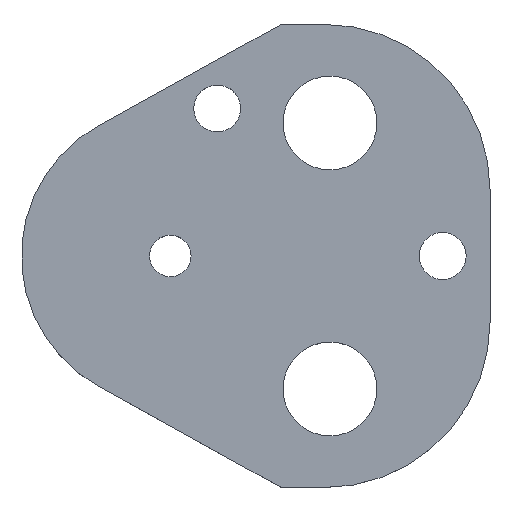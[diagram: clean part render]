
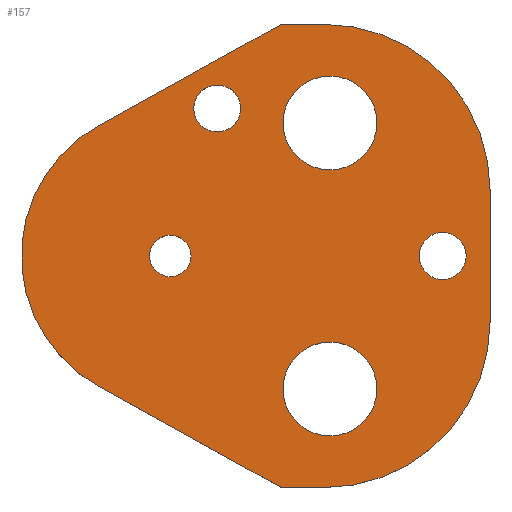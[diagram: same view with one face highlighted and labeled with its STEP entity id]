
A CAD part, top view. The second image highlights one B-rep face of the part: STEP entity #157.
In plain terms, the highlighted planar face has unit normal (0, 0, 1).
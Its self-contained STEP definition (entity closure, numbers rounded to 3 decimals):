
#103=FACE_BOUND('',#207,.T.);
#104=FACE_BOUND('',#208,.T.);
#105=FACE_BOUND('',#209,.T.);
#106=FACE_BOUND('',#210,.T.);
#107=FACE_BOUND('',#211,.T.);
#108=FACE_BOUND('',#212,.T.);
#122=CIRCLE('',#480,24.7);
#124=CIRCLE('',#484,24.7);
#127=CIRCLE('',#490,22.2);
#138=CIRCLE('',#503,7.);
#139=CIRCLE('',#504,7.);
#140=CIRCLE('',#505,3.5);
#141=CIRCLE('',#506,3.5);
#142=CIRCLE('',#507,7.);
#143=CIRCLE('',#508,7.);
#144=CIRCLE('',#509,3.5);
#145=CIRCLE('',#510,3.5);
#146=CIRCLE('',#511,3.1);
#147=CIRCLE('',#512,3.1);
#157=ADVANCED_FACE('',(#103,#104,#105,#106,#107,#108),#174,.T.);
#174=PLANE('',#513);
#207=EDGE_LOOP('',(#273,#274,#275,#276,#277,#278,#279,#280));
#208=EDGE_LOOP('',(#281,#282));
#209=EDGE_LOOP('',(#283,#284));
#210=EDGE_LOOP('',(#285,#286));
#211=EDGE_LOOP('',(#287,#288));
#212=EDGE_LOOP('',(#289,#290));
#273=ORIENTED_EDGE('',*,*,#368,.T.);
#274=ORIENTED_EDGE('',*,*,#372,.T.);
#275=ORIENTED_EDGE('',*,*,#375,.T.);
#276=ORIENTED_EDGE('',*,*,#378,.T.);
#277=ORIENTED_EDGE('',*,*,#381,.T.);
#278=ORIENTED_EDGE('',*,*,#384,.T.);
#279=ORIENTED_EDGE('',*,*,#387,.T.);
#280=ORIENTED_EDGE('',*,*,#390,.T.);
#281=ORIENTED_EDGE('',*,*,#401,.T.);
#282=ORIENTED_EDGE('',*,*,#402,.T.);
#283=ORIENTED_EDGE('',*,*,#403,.T.);
#284=ORIENTED_EDGE('',*,*,#404,.T.);
#285=ORIENTED_EDGE('',*,*,#405,.T.);
#286=ORIENTED_EDGE('',*,*,#406,.T.);
#287=ORIENTED_EDGE('',*,*,#407,.T.);
#288=ORIENTED_EDGE('',*,*,#408,.T.);
#289=ORIENTED_EDGE('',*,*,#409,.T.);
#290=ORIENTED_EDGE('',*,*,#410,.T.);
#332=VERTEX_POINT('',#649);
#333=VERTEX_POINT('',#651);
#336=VERTEX_POINT('',#658);
#338=VERTEX_POINT('',#664);
#340=VERTEX_POINT('',#670);
#342=VERTEX_POINT('',#676);
#344=VERTEX_POINT('',#682);
#346=VERTEX_POINT('',#688);
#357=VERTEX_POINT('',#717);
#358=VERTEX_POINT('',#718);
#359=VERTEX_POINT('',#721);
#360=VERTEX_POINT('',#722);
#361=VERTEX_POINT('',#725);
#362=VERTEX_POINT('',#726);
#363=VERTEX_POINT('',#729);
#364=VERTEX_POINT('',#730);
#365=VERTEX_POINT('',#733);
#366=VERTEX_POINT('',#734);
#368=EDGE_CURVE('',#333,#332,#422,.T.);
#372=EDGE_CURVE('',#332,#336,#426,.T.);
#375=EDGE_CURVE('',#336,#338,#122,.T.);
#378=EDGE_CURVE('',#338,#340,#430,.T.);
#381=EDGE_CURVE('',#340,#342,#124,.T.);
#384=EDGE_CURVE('',#342,#344,#434,.T.);
#387=EDGE_CURVE('',#344,#346,#437,.T.);
#390=EDGE_CURVE('',#346,#333,#127,.T.);
#401=EDGE_CURVE('',#357,#358,#138,.T.);
#402=EDGE_CURVE('',#358,#357,#139,.T.);
#403=EDGE_CURVE('',#359,#360,#140,.T.);
#404=EDGE_CURVE('',#360,#359,#141,.T.);
#405=EDGE_CURVE('',#361,#362,#142,.T.);
#406=EDGE_CURVE('',#362,#361,#143,.T.);
#407=EDGE_CURVE('',#363,#364,#144,.T.);
#408=EDGE_CURVE('',#364,#363,#145,.T.);
#409=EDGE_CURVE('',#365,#366,#146,.T.);
#410=EDGE_CURVE('',#366,#365,#147,.T.);
#422=LINE('',#650,#450);
#426=LINE('',#659,#454);
#430=LINE('',#671,#458);
#434=LINE('',#683,#462);
#437=LINE('',#689,#465);
#450=VECTOR('',#527,1.);
#454=VECTOR('',#533,1.);
#458=VECTOR('',#545,1.);
#462=VECTOR('',#557,1.);
#465=VECTOR('',#562,1.);
#480=AXIS2_PLACEMENT_3D('',#665,#538,#539);
#484=AXIS2_PLACEMENT_3D('',#677,#550,#551);
#490=AXIS2_PLACEMENT_3D('',#693,#568,#569);
#503=AXIS2_PLACEMENT_3D('',#716,#594,#595);
#504=AXIS2_PLACEMENT_3D('',#719,#596,#597);
#505=AXIS2_PLACEMENT_3D('',#720,#598,#599);
#506=AXIS2_PLACEMENT_3D('',#723,#600,#601);
#507=AXIS2_PLACEMENT_3D('',#724,#602,#603);
#508=AXIS2_PLACEMENT_3D('',#727,#604,#605);
#509=AXIS2_PLACEMENT_3D('',#728,#606,#607);
#510=AXIS2_PLACEMENT_3D('',#731,#608,#609);
#511=AXIS2_PLACEMENT_3D('',#732,#610,#611);
#512=AXIS2_PLACEMENT_3D('',#735,#612,#613);
#513=AXIS2_PLACEMENT_3D('',#736,#614,#615);
#527=DIRECTION('',(0.875,-0.485,0.));
#533=DIRECTION('',(1.,0.,0.));
#538=DIRECTION('',(0.,0.,1.));
#539=DIRECTION('',(-0.707,0.707,0.));
#545=DIRECTION('',(0.,1.,0.));
#550=DIRECTION('',(0.,0.,1.));
#551=DIRECTION('',(-0.707,-0.707,0.));
#557=DIRECTION('',(-1.,0.,0.));
#562=DIRECTION('',(-0.875,-0.485,0.));
#568=DIRECTION('',(0.,0.,1.));
#569=DIRECTION('',(1.,0.,0.));
#594=DIRECTION('',(0.,0.,-1.));
#595=DIRECTION('',(-1.,0.,0.));
#596=DIRECTION('',(0.,0.,-1.));
#597=DIRECTION('',(1.,0.,0.));
#598=DIRECTION('',(0.,0.,-1.));
#599=DIRECTION('',(-1.,0.,0.));
#600=DIRECTION('',(0.,0.,-1.));
#601=DIRECTION('',(1.,0.,0.));
#602=DIRECTION('',(0.,0.,-1.));
#603=DIRECTION('',(-1.,0.,0.));
#604=DIRECTION('',(0.,0.,-1.));
#605=DIRECTION('',(1.,0.,0.));
#606=DIRECTION('',(0.,0.,-1.));
#607=DIRECTION('',(-1.,0.,0.));
#608=DIRECTION('',(0.,0.,-1.));
#609=DIRECTION('',(1.,0.,0.));
#610=DIRECTION('',(0.,0.,-1.));
#611=DIRECTION('',(-1.,0.,0.));
#612=DIRECTION('',(0.,0.,-1.));
#613=DIRECTION('',(1.,0.,0.));
#614=DIRECTION('',(0.,0.,1.));
#615=DIRECTION('',(-0.875,0.485,0.));
#649=CARTESIAN_POINT('',(16.539,-34.55,5.));
#650=CARTESIAN_POINT('',(16.539,-34.55,5.));
#651=CARTESIAN_POINT('',(-10.763,-19.417,5.));
#658=CARTESIAN_POINT('',(23.,-34.55,5.));
#659=CARTESIAN_POINT('',(16.539,-34.55,5.));
#664=CARTESIAN_POINT('',(47.7,-9.85,5.));
#665=CARTESIAN_POINT('',(23.,-9.85,5.));
#670=CARTESIAN_POINT('',(47.7,9.85,5.));
#671=CARTESIAN_POINT('',(47.7,9.85,5.));
#676=CARTESIAN_POINT('',(23.,34.55,5.));
#677=CARTESIAN_POINT('',(23.,9.85,5.));
#682=CARTESIAN_POINT('',(16.539,34.55,5.));
#683=CARTESIAN_POINT('',(16.539,34.55,5.));
#688=CARTESIAN_POINT('',(-10.763,19.417,5.));
#689=CARTESIAN_POINT('',(16.539,34.55,5.));
#693=CARTESIAN_POINT('',(0.,0.,5.));
#716=CARTESIAN_POINT('',(23.82,-19.84,5.));
#717=CARTESIAN_POINT('',(23.82,-12.84,5.));
#718=CARTESIAN_POINT('',(23.82,-26.84,5.));
#719=CARTESIAN_POINT('',(23.82,-19.84,5.));
#720=CARTESIAN_POINT('',(40.64,0.,5.));
#721=CARTESIAN_POINT('',(40.64,3.5,5.));
#722=CARTESIAN_POINT('',(40.64,-3.5,5.));
#723=CARTESIAN_POINT('',(40.64,0.,5.));
#724=CARTESIAN_POINT('',(23.82,19.84,5.));
#725=CARTESIAN_POINT('',(23.82,26.84,5.));
#726=CARTESIAN_POINT('',(23.82,12.84,5.));
#727=CARTESIAN_POINT('',(23.82,19.84,5.));
#728=CARTESIAN_POINT('',(7.,22.,5.));
#729=CARTESIAN_POINT('',(7.,25.5,5.));
#730=CARTESIAN_POINT('',(7.,18.5,5.));
#731=CARTESIAN_POINT('',(7.,22.,5.));
#732=CARTESIAN_POINT('',(0.,0.,5.));
#733=CARTESIAN_POINT('',(0.,3.1,5.));
#734=CARTESIAN_POINT('',(0.,-3.1,5.));
#735=CARTESIAN_POINT('',(0.,0.,5.));
#736=CARTESIAN_POINT('',(-10.763,-19.417,5.));
